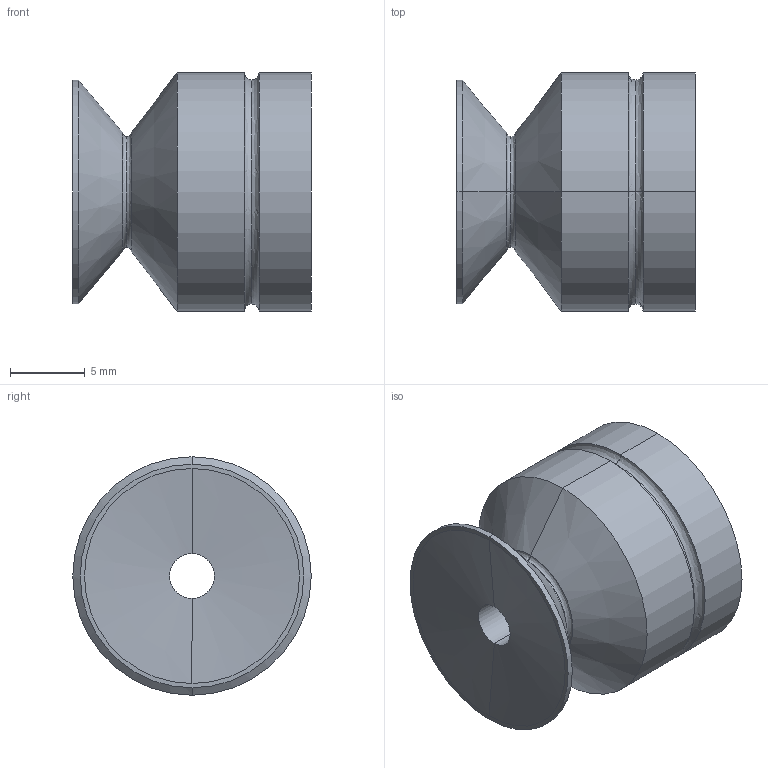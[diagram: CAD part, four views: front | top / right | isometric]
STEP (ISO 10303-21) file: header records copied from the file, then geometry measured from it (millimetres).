
FILE_DESCRIPTION (( 'STEP AP214' ), '1' );
FILE_NAME ('VSH-15R.STEP', '2019-11-14T01:27:36', ( '微软用户' ), ( '微软中国' ), 'SwSTEP 2.0', 'SolidWorks 2016', '' );
FILE_SCHEMA (( 'AUTOMOTIVE_DESIGN' ));
Length unit declared in the file: millimetre
Products named in the file (1): VSH-15R
Bounding box: 16 x 16 x 16 mm (x, y, z)
Volume: 2157.8 mm3; surface area: 1565.3 mm2
Topology: 1 solids, 1 shells, 30 faces, 60 edges, 34 vertices
Faces by surface type: cylinder 12, bspline 8, cone 6, plane 4
Entity records: 900 total; most frequent: CARTESIAN_POINT 269, DIRECTION 132, ORIENTED_EDGE 120, EDGE_CURVE 60, AXIS2_PLACEMENT_3D 57, VERTEX_POINT 34, CIRCLE 34, EDGE_LOOP 34
